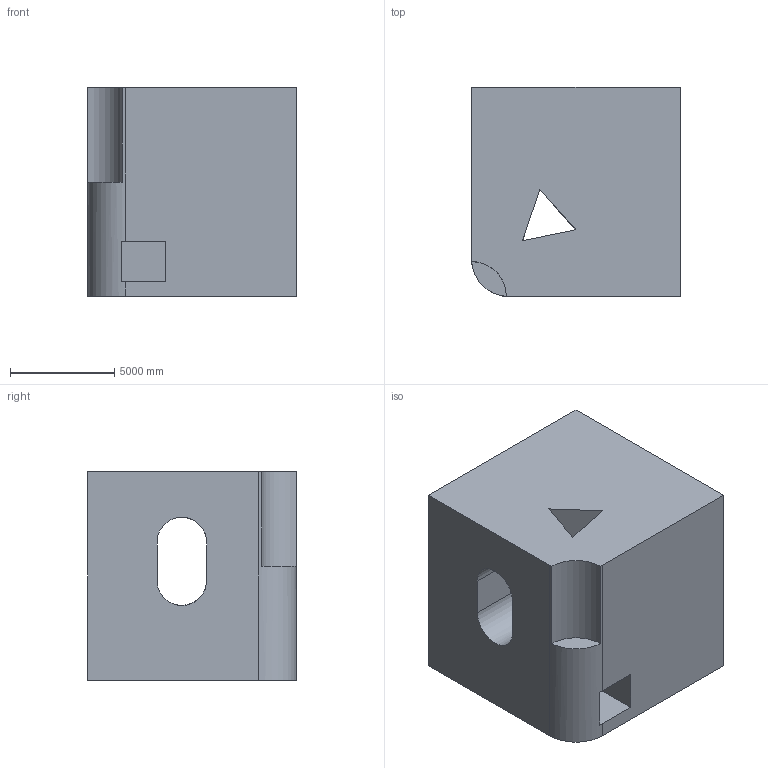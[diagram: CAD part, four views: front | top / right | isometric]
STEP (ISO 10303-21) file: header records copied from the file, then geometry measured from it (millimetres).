
FILE_DESCRIPTION (( 'STEP AP203' ), '1' );
FILE_NAME ('1683.STEP', '2022-08-19T11:41:47', ( 'user' ), ( '' ), 'SwSTEP 2.0', 'SolidWorks 2021', '' );
FILE_SCHEMA (( 'CONFIG_CONTROL_DESIGN' ));
Length unit declared in the file: centimetre
Products named in the file (1): 1683
Bounding box: 10000 x 10000 x 10000 mm (x, y, z)
Volume: 825912946494.4 mm3; surface area: 804429454.5 mm2
Topology: 1 solids, 1 shells, 45 faces, 138 edges, 92 vertices
Faces by surface type: plane 39, cylinder 6
Entity records: 1619 total; most frequent: CARTESIAN_POINT 312, ORIENTED_EDGE 276, DIRECTION 232, EDGE_CURVE 138, LINE 112, VECTOR 112, VERTEX_POINT 92, AXIS2_PLACEMENT_3D 60
